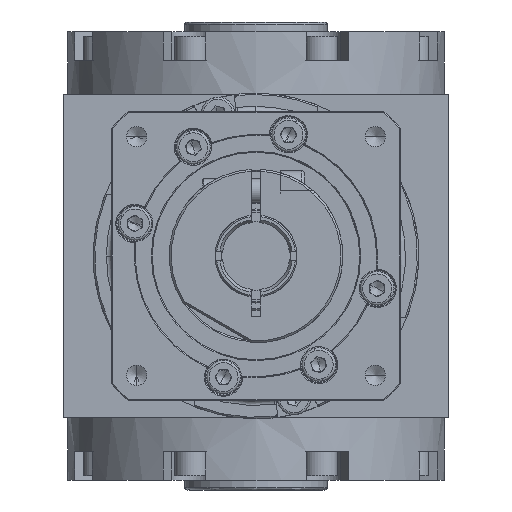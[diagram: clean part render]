
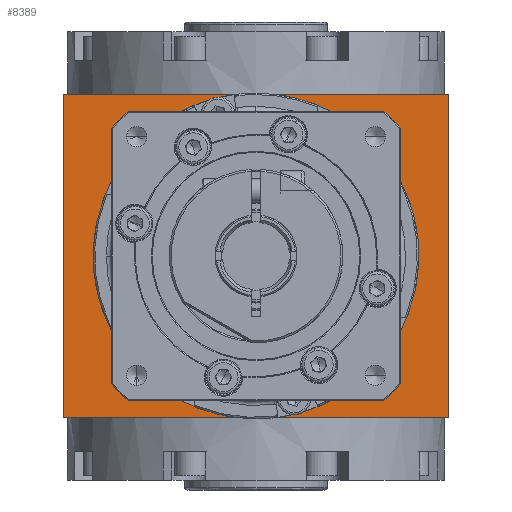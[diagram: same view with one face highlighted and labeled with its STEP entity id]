
A CAD part, front view. The second image highlights one B-rep face of the part: STEP entity #8389.
In plain terms, the highlighted planar face has unit normal (0, -1, 0).
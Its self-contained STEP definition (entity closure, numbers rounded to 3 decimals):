
#123 = LINE ( 'NONE', #9082, #29376 ) ;
#243 = EDGE_CURVE ( 'NONE', #36170, #20293, #1256, .T. ) ;
#498 = DIRECTION ( 'NONE',  ( -1., 0., 0. ) ) ;
#1066 = EDGE_CURVE ( 'NONE', #15571, #11880, #16899, .T. ) ;
#1256 = CIRCLE ( 'NONE', #4990, 40. ) ;
#1716 = AXIS2_PLACEMENT_3D ( 'NONE', #7107, #21145, #27756 ) ;
#2300 = ORIENTED_EDGE ( 'NONE', *, *, #22246, .T. ) ;
#2495 = DIRECTION ( 'NONE',  ( 0., 0., -1. ) ) ;
#3486 = ORIENTED_EDGE ( 'NONE', *, *, #34347, .T. ) ;
#3516 = DIRECTION ( 'NONE',  ( 0., 0., -1. ) ) ;
#3537 = ORIENTED_EDGE ( 'NONE', *, *, #1066, .T. ) ;
#3550 = ORIENTED_EDGE ( 'NONE', *, *, #243, .T. ) ;
#4160 = VECTOR ( 'NONE', #2495, 1000. ) ;
#4739 = DIRECTION ( 'NONE',  ( 0., 1., 0. ) ) ;
#4990 = AXIS2_PLACEMENT_3D ( 'NONE', #8608, #16803, #11539 ) ;
#5660 = EDGE_CURVE ( 'NONE', #20293, #25002, #33185, .T. ) ;
#5704 = EDGE_CURVE ( 'NONE', #27805, #34435, #28277, .T. ) ;
#6091 = AXIS2_PLACEMENT_3D ( 'NONE', #31656, #13900, #10988 ) ;
#6468 = CARTESIAN_POINT ( 'NONE',  ( -40., -40., 30. ) ) ;
#6911 = VECTOR ( 'NONE', #35055, 1000. ) ;
#7107 = CARTESIAN_POINT ( 'NONE',  ( 0., -40., 0. ) ) ;
#7432 = FACE_OUTER_BOUND ( 'NONE', #11070, .T. ) ;
#7616 = CARTESIAN_POINT ( 'NONE',  ( -40., -40., -30. ) ) ;
#8045 = LINE ( 'NONE', #32604, #31252 ) ;
#8389 = ADVANCED_FACE ( 'NONE', ( #7432, #12882 ), #24770, .T. ) ;
#8540 = LINE ( 'NONE', #23349, #4160 ) ;
#8608 = CARTESIAN_POINT ( 'NONE',  ( 0., -40., 0. ) ) ;
#8626 = CARTESIAN_POINT ( 'NONE',  ( 40., -40., -33.5 ) ) ;
#8672 = CARTESIAN_POINT ( 'NONE',  ( 26.458, -40., 30. ) ) ;
#9082 = CARTESIAN_POINT ( 'NONE',  ( -40., -40., 33.5 ) ) ;
#9123 = EDGE_CURVE ( 'NONE', #10447, #27805, #14332, .T. ) ;
#9740 = EDGE_CURVE ( 'NONE', #27281, #36170, #26308, .T. ) ;
#10173 = DIRECTION ( 'NONE',  ( 0., -1., 0. ) ) ;
#10447 = VERTEX_POINT ( 'NONE', #16562 ) ;
#10764 = ORIENTED_EDGE ( 'NONE', *, *, #9123, .T. ) ;
#10988 = DIRECTION ( 'NONE',  ( 0., 0., 1. ) ) ;
#11070 = EDGE_LOOP ( 'NONE', ( #36611, #3537, #27036, #2300 ) ) ;
#11539 = DIRECTION ( 'NONE',  ( 0., 0., 1. ) ) ;
#11880 = VERTEX_POINT ( 'NONE', #8626 ) ;
#12860 = VECTOR ( 'NONE', #27306, 1000. ) ;
#12882 = FACE_BOUND ( 'NONE', #24997, .T. ) ;
#13182 = VERTEX_POINT ( 'NONE', #23243 ) ;
#13271 = DIRECTION ( 'NONE',  ( 0., 0., -1. ) ) ;
#13900 = DIRECTION ( 'NONE',  ( 0., 1., 0. ) ) ;
#14332 = CIRCLE ( 'NONE', #36141, 40. ) ;
#14667 = CARTESIAN_POINT ( 'NONE',  ( 26.458, -40., -30. ) ) ;
#14736 = CARTESIAN_POINT ( 'NONE',  ( 0., -40., 0. ) ) ;
#15571 = VERTEX_POINT ( 'NONE', #26958 ) ;
#15849 = CARTESIAN_POINT ( 'NONE',  ( -26.458, -40., 30. ) ) ;
#16562 = CARTESIAN_POINT ( 'NONE',  ( 30., -40., -26.458 ) ) ;
#16803 = DIRECTION ( 'NONE',  ( 0., 1., 0. ) ) ;
#16899 = LINE ( 'NONE', #23130, #6911 ) ;
#17152 = EDGE_CURVE ( 'NONE', #36627, #10447, #8045, .T. ) ;
#17223 = EDGE_CURVE ( 'NONE', #13182, #11880, #27302, .T. ) ;
#17512 = VERTEX_POINT ( 'NONE', #34537 ) ;
#18274 = VECTOR ( 'NONE', #35497, 1000. ) ;
#18528 = CIRCLE ( 'NONE', #1716, 40. ) ;
#18562 = CIRCLE ( 'NONE', #6091, 40. ) ;
#19262 = AXIS2_PLACEMENT_3D ( 'NONE', #27703, #10173, #13271 ) ;
#19958 = ORIENTED_EDGE ( 'NONE', *, *, #34255, .T. ) ;
#20293 = VERTEX_POINT ( 'NONE', #15849 ) ;
#21145 = DIRECTION ( 'NONE',  ( 0., 1., 0. ) ) ;
#22246 = EDGE_CURVE ( 'NONE', #13182, #17512, #123, .T. ) ;
#22356 = CARTESIAN_POINT ( 'NONE',  ( -30., -40., -26.458 ) ) ;
#22521 = VECTOR ( 'NONE', #3516, 1000. ) ;
#23130 = CARTESIAN_POINT ( 'NONE',  ( 0., -40., -33.5 ) ) ;
#23243 = CARTESIAN_POINT ( 'NONE',  ( 40., -40., 33.5 ) ) ;
#23349 = CARTESIAN_POINT ( 'NONE',  ( -40., -40., -33.5 ) ) ;
#23378 = CARTESIAN_POINT ( 'NONE',  ( -30., -40., -33.5 ) ) ;
#24770 = PLANE ( 'NONE',  #19262 ) ;
#24997 = EDGE_LOOP ( 'NONE', ( #25601, #3550, #28580, #19958, #36084, #10764, #26468, #3486 ) ) ;
#25002 = VERTEX_POINT ( 'NONE', #8672 ) ;
#25601 = ORIENTED_EDGE ( 'NONE', *, *, #9740, .T. ) ;
#26308 = LINE ( 'NONE', #23378, #18274 ) ;
#26468 = ORIENTED_EDGE ( 'NONE', *, *, #5704, .T. ) ;
#26535 = CARTESIAN_POINT ( 'NONE',  ( 40., -40., -33.5 ) ) ;
#26958 = CARTESIAN_POINT ( 'NONE',  ( -40., -40., -33.5 ) ) ;
#27036 = ORIENTED_EDGE ( 'NONE', *, *, #17223, .F. ) ;
#27281 = VERTEX_POINT ( 'NONE', #22356 ) ;
#27302 = LINE ( 'NONE', #26535, #22521 ) ;
#27306 = DIRECTION ( 'NONE',  ( 1., 0., 0. ) ) ;
#27703 = CARTESIAN_POINT ( 'NONE',  ( -40., -40., -33.5 ) ) ;
#27756 = DIRECTION ( 'NONE',  ( 0., 0., 1. ) ) ;
#27805 = VERTEX_POINT ( 'NONE', #14667 ) ;
#27892 = DIRECTION ( 'NONE',  ( -1., 0., 0. ) ) ;
#28009 = CARTESIAN_POINT ( 'NONE',  ( 30., -40., 26.458 ) ) ;
#28277 = LINE ( 'NONE', #7616, #32791 ) ;
#28580 = ORIENTED_EDGE ( 'NONE', *, *, #5660, .T. ) ;
#29376 = VECTOR ( 'NONE', #498, 1000. ) ;
#29463 = DIRECTION ( 'NONE',  ( 0., 0., -1. ) ) ;
#29476 = CARTESIAN_POINT ( 'NONE',  ( -26.458, -40., -30. ) ) ;
#31192 = CARTESIAN_POINT ( 'NONE',  ( -30., -40., 26.458 ) ) ;
#31252 = VECTOR ( 'NONE', #29463, 1000. ) ;
#31656 = CARTESIAN_POINT ( 'NONE',  ( 0., -40., 0. ) ) ;
#32021 = EDGE_CURVE ( 'NONE', #17512, #15571, #8540, .T. ) ;
#32604 = CARTESIAN_POINT ( 'NONE',  ( 30., -40., -33.5 ) ) ;
#32791 = VECTOR ( 'NONE', #27892, 1000. ) ;
#33185 = LINE ( 'NONE', #6468, #12860 ) ;
#34255 = EDGE_CURVE ( 'NONE', #25002, #36627, #18528, .T. ) ;
#34347 = EDGE_CURVE ( 'NONE', #34435, #27281, #18562, .T. ) ;
#34435 = VERTEX_POINT ( 'NONE', #29476 ) ;
#34537 = CARTESIAN_POINT ( 'NONE',  ( -40., -40., 33.5 ) ) ;
#34590 = DIRECTION ( 'NONE',  ( 0., 0., 1. ) ) ;
#35055 = DIRECTION ( 'NONE',  ( 1., 0., 0. ) ) ;
#35497 = DIRECTION ( 'NONE',  ( 0., 0., 1. ) ) ;
#36084 = ORIENTED_EDGE ( 'NONE', *, *, #17152, .T. ) ;
#36141 = AXIS2_PLACEMENT_3D ( 'NONE', #14736, #4739, #34590 ) ;
#36170 = VERTEX_POINT ( 'NONE', #31192 ) ;
#36611 = ORIENTED_EDGE ( 'NONE', *, *, #32021, .T. ) ;
#36627 = VERTEX_POINT ( 'NONE', #28009 ) ;
